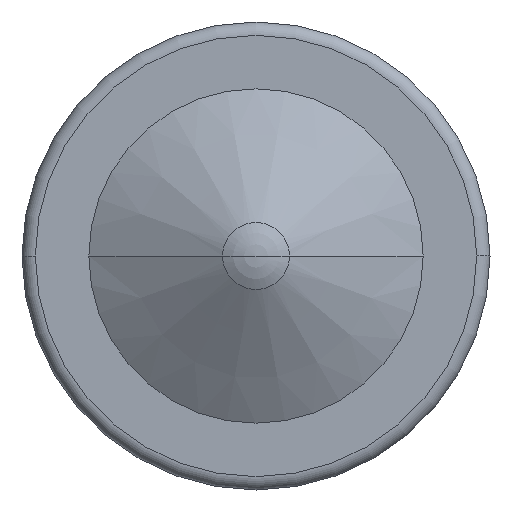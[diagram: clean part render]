
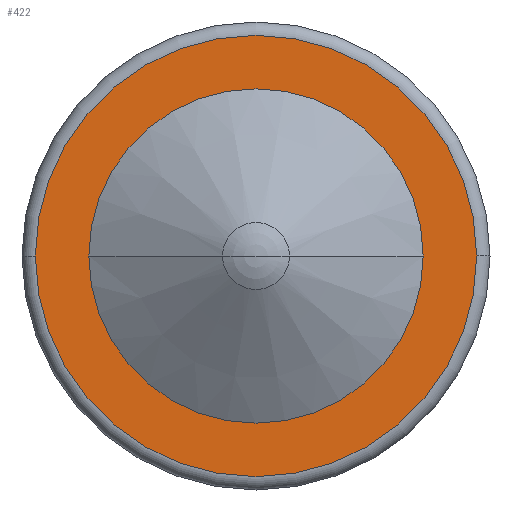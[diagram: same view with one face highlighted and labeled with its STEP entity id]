
A CAD part, front view. The second image highlights one B-rep face of the part: STEP entity #422.
In plain terms, the highlighted planar face has unit normal (0, -1, 0).
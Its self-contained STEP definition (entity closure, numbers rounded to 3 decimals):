
#115=CARTESIAN_POINT('',(0.,-10.5,0.));
#116=DIRECTION('',(0.,1.,0.));
#117=DIRECTION('',(1.,0.,0.));
#118=AXIS2_PLACEMENT_3D('',#115,#116,#117);
#120=CARTESIAN_POINT('',(0.,-10.5,0.));
#121=DIRECTION('',(0.,-1.,0.));
#122=DIRECTION('',(1.,0.,0.));
#123=AXIS2_PLACEMENT_3D('',#120,#121,#122);
#125=CARTESIAN_POINT('',(0.,-10.5,0.));
#126=DIRECTION('',(0.,1.,0.));
#127=DIRECTION('',(1.,0.,0.));
#128=AXIS2_PLACEMENT_3D('',#125,#126,#127);
#130=CARTESIAN_POINT('',(0.,-10.5,0.));
#131=DIRECTION('',(0.,1.,0.));
#132=DIRECTION('',(-1.,0.,0.));
#133=AXIS2_PLACEMENT_3D('',#130,#131,#132);
#195=CARTESIAN_POINT('',(1.25,-10.5,0.));
#196=VERTEX_POINT('',#195);
#207=CARTESIAN_POINT('',(-1.25,-10.5,0.));
#208=VERTEX_POINT('',#207);
#213=CARTESIAN_POINT('',(1.65,-10.5,0.));
#214=CARTESIAN_POINT('',(-1.65,-10.5,0.));
#215=VERTEX_POINT('',#213);
#216=VERTEX_POINT('',#214);
#407=CARTESIAN_POINT('',(0.,-10.5,0.));
#408=DIRECTION('',(0.,1.,0.));
#409=DIRECTION('',(1.,0.,0.));
#410=AXIS2_PLACEMENT_3D('',#407,#408,#409);
#411=PLANE('',#410);
#412=ORIENTED_EDGE('',*,*,#387,.T.);
#413=ORIENTED_EDGE('',*,*,#401,.T.);
#414=EDGE_LOOP('',(#412,#413));
#415=FACE_OUTER_BOUND('',#414,.F.);
#417=ORIENTED_EDGE('',*,*,#416,.F.);
#419=ORIENTED_EDGE('',*,*,#418,.T.);
#420=EDGE_LOOP('',(#417,#419));
#421=FACE_BOUND('',#420,.F.);
#119=CIRCLE('',#118,1.25);
#124=CIRCLE('',#123,1.25);
#129=CIRCLE('',#128,1.65);
#134=CIRCLE('',#133,1.65);
#387=EDGE_CURVE('',#215,#216,#129,.T.);
#401=EDGE_CURVE('',#216,#215,#134,.T.);
#416=EDGE_CURVE('',#196,#208,#119,.T.);
#418=EDGE_CURVE('',#196,#208,#124,.T.);
#422=ADVANCED_FACE('',(#415,#421),#411,.F.);
